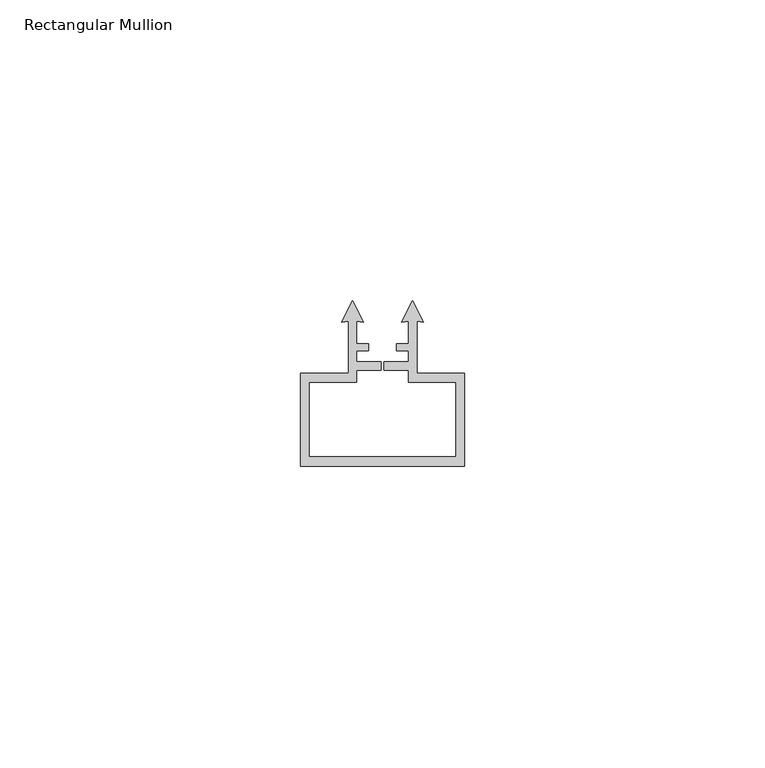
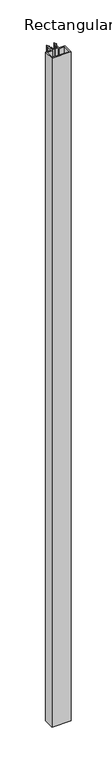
"""IFC4 building model written with IfcOpenShell, lengths in millimetres: member geometry, Rectangular Mullion : Renson_Linarte_LA-B16-02."""

from ifc_helpers import new_model, si_unit, frame, origin, place, context, project, spatial, polyline, outline, extrude, source, transform, mapped, element, save


def rectangular_mullion_79f168d4(model_context):
    return source(origin(), model_context, "Body", "SweptSolid", [
        extrude(outline(polyline([(0.0, -37.1145896), (0.0, -52.6), (-27.3, -52.6), (-27.3, -37.1145896), (-19.3352456, -37.1145896), (-19.3352456, -28.5038204), (-20.450982, -28.6014347), (-18.6352454, -25.0378473), (-16.8195089, -28.6014347), (-17.9352461, -28.5038204), (-17.9352461, -32.1983509), (-15.947683, -32.1983509), (-15.947683, -33.4004385), (-17.9352461, -33.4004385), (-17.9352461, -35.1990004), (-13.8577232, -35.1990004), (-13.8577232, -36.5990004), (-17.9352461, -36.5990004), (-17.9352461, -38.5906233), (-25.8504345, -38.5906233), (-25.8504345, -50.9963923), (-1.4519612, -50.9963923), (-1.4519612, -38.5906233), (-9.3352448, -38.5906233), (-9.3352448, -36.5990004), (-13.4127676, -36.5990004), (-13.4127676, -35.1990004), (-9.3352448, -35.1990004), (-9.3352448, -33.4004385), (-11.3228079, -33.4004385), (-11.3228079, -32.1983509), (-9.3352448, -32.1983509), (-9.3352448, -28.5038204), (-10.450982, -28.6014347), (-8.6352454, -25.0378473), (-6.8195089, -28.6014347), (-7.9352453, -28.5038204), (-7.9352453, -37.1145896), (0.0, -37.1145896)])), frame((0.0, 0.0, -1000.0), z_axis=(0.0, 0.0, 1.0), x_axis=(1.0, 0.0, 0.0)), (0.0, 0.0, 1.0), 1000.0),
    ])


if __name__ == "__main__":
    model = new_model("IFC4")
    model_context = context("Model", 3, world=origin())
    ifc_project = project(units=[si_unit("LENGTHUNIT", "METRE", prefix="MILLI")], contexts=[model_context])
    site = spatial("IfcSite", under=ifc_project)
    building = spatial("IfcBuilding", under=site)
    placement = place(None, origin())
    rectangular_mullion_shape = rectangular_mullion_79f168d4(model_context)
    element("IfcMember", 1, ObjectType="Rectangular Mullion : Renson_Linarte_LA-B16-02", at=placement, inside=building, context=model_context, shape_type="MappedRepresentation", body=[
        mapped(rectangular_mullion_shape, transform((0.0, 0.0, 0.0), x_axis=(1.0, 0.0, 0.0), y_axis=(0.0, 1.0, 0.0), z_axis=(0.0, 0.0, 1.0))),
    ])
    save(model, "model.ifc")
